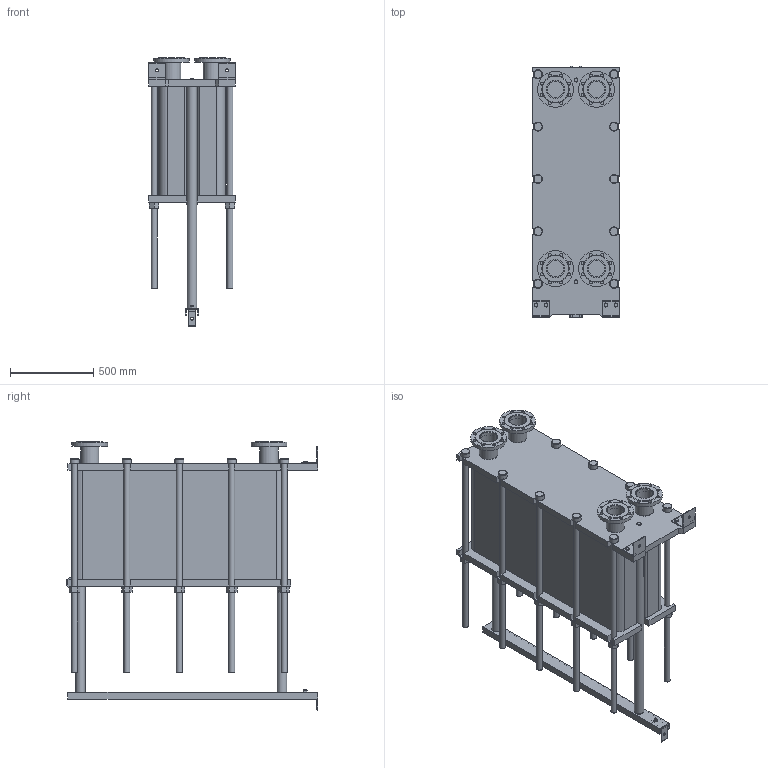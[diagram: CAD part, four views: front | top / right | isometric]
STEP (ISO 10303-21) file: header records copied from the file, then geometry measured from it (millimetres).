
FILE_DESCRIPTION(/* description */ (''),/* implementation_level */ '2;1');
FILE_NAME(/* name */ 'C:\Users\zhuro\Desktop\ENCO\TO\ЭН-04\ЭН-0,5-04-190-1.stp',/* time_stamp */ '2022-06-06T11:01:33+03:00',/* author */ ('zhuro'),/* organization */ (''),/* preprocessor_version */ 'ST-DEVELOPER v18.1',/* originating_system */ 'Autodesk Inventor 2022',/* authorisation */ '');
FILE_SCHEMA (('AUTOMOTIVE_DESIGN { 1 0 10303 214 3 1 1 }'));
Length unit declared in the file: millimetre
Products named in the file (1): ЭН-0,5-04-190-1
Bounding box: 520 x 1510 x 1610 mm (x, y, z)
Volume: 403640794.9 mm3; surface area: 10334370.5 mm2
Topology: 45 solids, 45 shells, 668 faces, 1611 edges, 1048 vertices
Faces by surface type: plane 457, cylinder 166, cone 39, torus 6
Full cylindrical faces by diameter (mm): 8 x4, 10 x2, 16 x8, 18 x35, 36 x25, 40 x2, 42 x1, 45 x4, 54 x10, 57 x2, 60 x10, 68 x2, 100 x4, 110 x8, 215 x4
Entity records: 23607 total; most frequent: CARTESIAN_POINT 7348, DIRECTION 3371, ORIENTED_EDGE 3142, EDGE_CURVE 1571, AXIS2_PLACEMENT_3D 1199, VERTEX_POINT 1044, LINE 973, VECTOR 973
